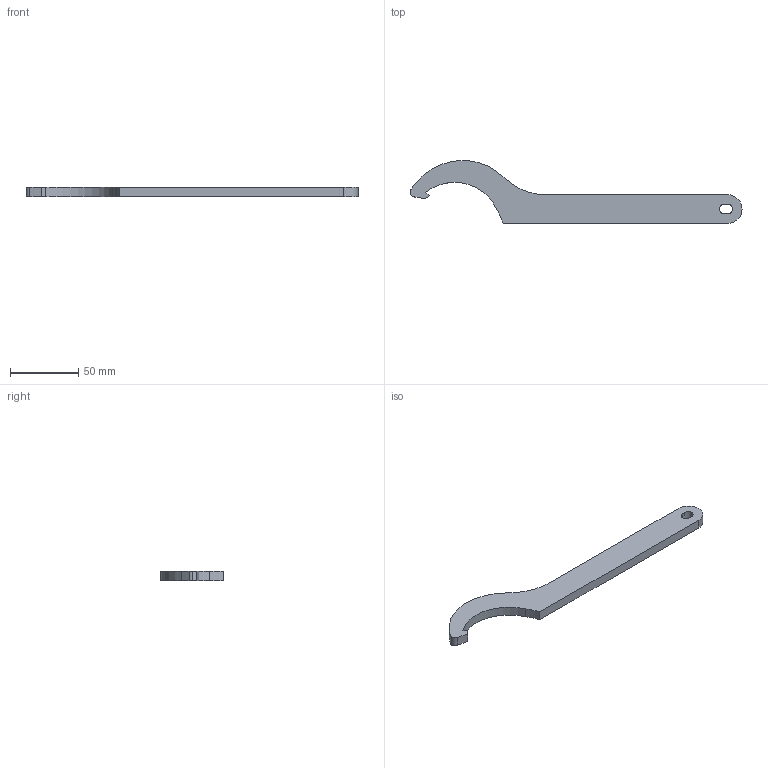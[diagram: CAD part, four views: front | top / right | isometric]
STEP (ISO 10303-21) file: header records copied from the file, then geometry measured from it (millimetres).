
FILE_DESCRIPTION (( 'STEP AP214' ), '1' );
FILE_NAME ('1810-A65-70.step', '2021-06-24T05:39:21', ( '' ), ( '' ), 'SwSTEP 2.0', 'SolidWorks 2019', '' );
FILE_SCHEMA (( 'AUTOMOTIVE_DESIGN' ));
Length unit declared in the file: millimetre
Products named in the file (1): 1810-A65-70
Bounding box: 242.46 x 45.96 x 7 mm (x, y, z)
Volume: 34115.9 mm3; surface area: 13701.9 mm2
Topology: 1 solids, 1 shells, 20 faces, 54 edges, 36 vertices
Faces by surface type: cylinder 10, plane 10
Entity records: 676 total; most frequent: DIRECTION 116, CARTESIAN_POINT 111, ORIENTED_EDGE 108, EDGE_CURVE 54, AXIS2_PLACEMENT_3D 41, VERTEX_POINT 36, LINE 34, VECTOR 34
